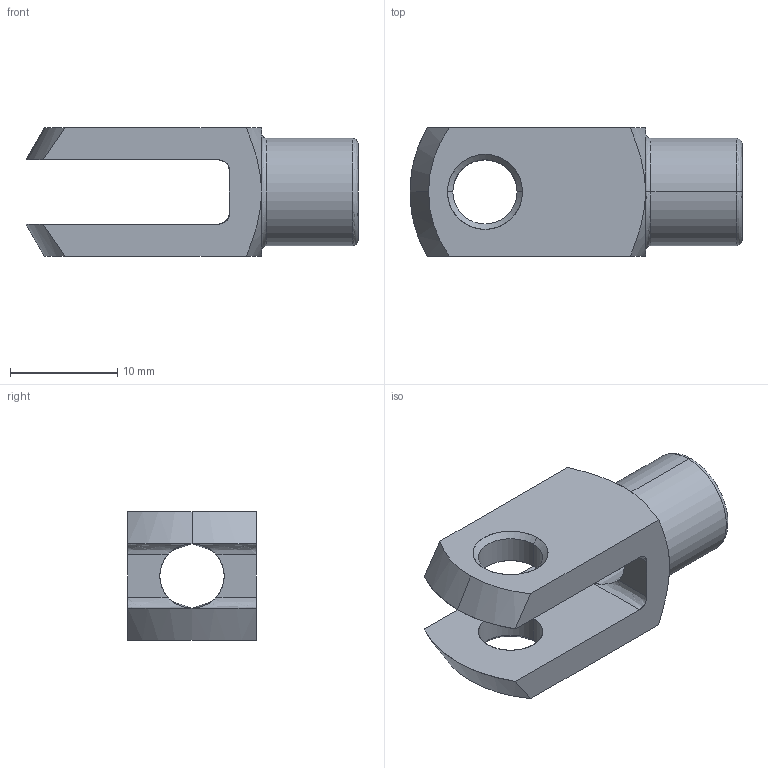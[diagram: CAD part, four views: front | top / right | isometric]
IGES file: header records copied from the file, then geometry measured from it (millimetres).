
Start section: SolidWorks IGES file using analytic representation for surfaces
Global section: file name: C:\Documents and Settings\IANO\My Documents\Wix and Auto CAD Work\CAD Models\Parametric Models\Wix Models\60000\65635_v2\65635_v2_IGES\65635.W0061.igs; native system: SolidWorks 2009; preprocessor: SolidWorks 2009; author: IANO; date: 140117.130409; units: millimetre
Bounding box: 31 x 12 x 12 mm (x, y, z)
Surface area: 1883.8 mm2 (no closed solid volume)
Topology: 0 solids, 0 shells, 39 faces, 576 edges, 576 vertices
Faces by surface type: revolution 25, bspline 14
